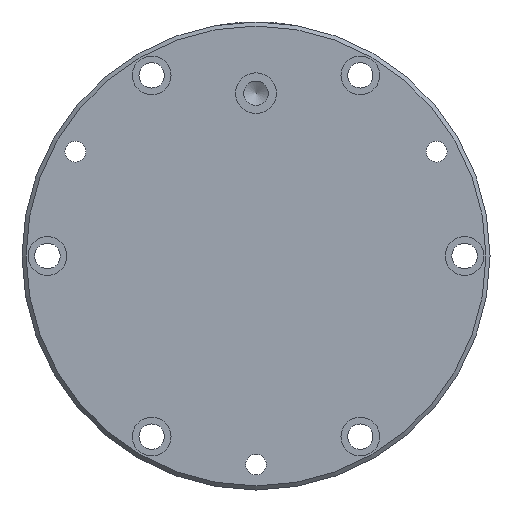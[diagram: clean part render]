
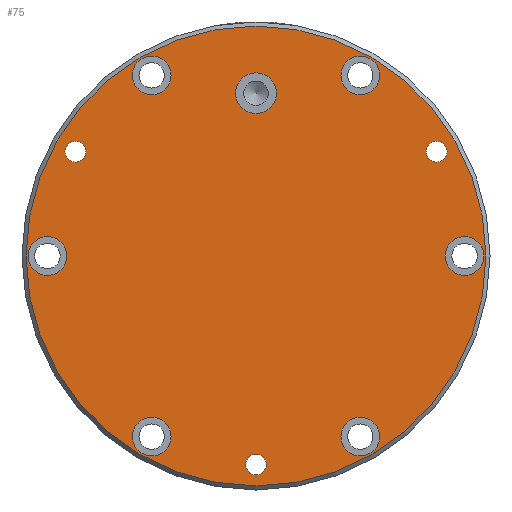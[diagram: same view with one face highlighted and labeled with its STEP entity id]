
A CAD part, left-side view. The second image highlights one B-rep face of the part: STEP entity #75.
In plain terms, the highlighted planar face has unit normal (-1, 0, 0).
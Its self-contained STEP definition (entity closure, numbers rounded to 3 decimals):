
#75 = ADVANCED_FACE( '', ( #118, #119, #120, #121, #122, #123, #124, #125, #126, #127, #128 ), #129, .T. );
#118 = FACE_BOUND( '', #262, .T. );
#119 = FACE_BOUND( '', #263, .T. );
#120 = FACE_BOUND( '', #264, .T. );
#121 = FACE_BOUND( '', #265, .T. );
#122 = FACE_BOUND( '', #266, .T. );
#123 = FACE_BOUND( '', #267, .T. );
#124 = FACE_BOUND( '', #268, .T. );
#125 = FACE_BOUND( '', #269, .T. );
#126 = FACE_BOUND( '', #270, .T. );
#127 = FACE_OUTER_BOUND( '', #271, .T. );
#128 = FACE_BOUND( '', #272, .T. );
#129 = PLANE( '', #273 );
#262 = EDGE_LOOP( '', ( #406 ) );
#263 = EDGE_LOOP( '', ( #407 ) );
#264 = EDGE_LOOP( '', ( #408 ) );
#265 = EDGE_LOOP( '', ( #409 ) );
#266 = EDGE_LOOP( '', ( #410 ) );
#267 = EDGE_LOOP( '', ( #411 ) );
#268 = EDGE_LOOP( '', ( #412 ) );
#269 = EDGE_LOOP( '', ( #413 ) );
#270 = EDGE_LOOP( '', ( #414 ) );
#271 = EDGE_LOOP( '', ( #415 ) );
#272 = EDGE_LOOP( '', ( #416 ) );
#273 = AXIS2_PLACEMENT_3D( '', #417, #418, #419 );
#406 = ORIENTED_EDGE( '', *, *, #635, .F. );
#407 = ORIENTED_EDGE( '', *, *, #636, .F. );
#408 = ORIENTED_EDGE( '', *, *, #637, .F. );
#409 = ORIENTED_EDGE( '', *, *, #638, .T. );
#410 = ORIENTED_EDGE( '', *, *, #639, .T. );
#411 = ORIENTED_EDGE( '', *, *, #640, .T. );
#412 = ORIENTED_EDGE( '', *, *, #641, .T. );
#413 = ORIENTED_EDGE( '', *, *, #642, .T. );
#414 = ORIENTED_EDGE( '', *, *, #643, .T. );
#415 = ORIENTED_EDGE( '', *, *, #644, .T. );
#416 = ORIENTED_EDGE( '', *, *, #645, .T. );
#417 = CARTESIAN_POINT( '', ( 0., 0., 0. ) );
#418 = DIRECTION( '', ( -1., 0., 0. ) );
#419 = DIRECTION( '', ( 0., 0., 1. ) );
#635 = EDGE_CURVE( '', #687, #687, #688, .T. );
#636 = EDGE_CURVE( '', #689, #689, #690, .T. );
#637 = EDGE_CURVE( '', #691, #691, #692, .T. );
#638 = EDGE_CURVE( '', #693, #693, #694, .T. );
#639 = EDGE_CURVE( '', #695, #695, #696, .T. );
#640 = EDGE_CURVE( '', #697, #697, #698, .T. );
#641 = EDGE_CURVE( '', #699, #699, #700, .T. );
#642 = EDGE_CURVE( '', #701, #701, #702, .T. );
#643 = EDGE_CURVE( '', #703, #703, #704, .T. );
#644 = EDGE_CURVE( '', #705, #705, #706, .T. );
#645 = EDGE_CURVE( '', #707, #707, #708, .T. );
#687 = VERTEX_POINT( '', #788 );
#688 = CIRCLE( '', #789, 5.1 );
#689 = VERTEX_POINT( '', #790 );
#690 = CIRCLE( '', #791, 5.1 );
#691 = VERTEX_POINT( '', #792 );
#692 = CIRCLE( '', #793, 5.1 );
#693 = VERTEX_POINT( '', #794 );
#694 = CIRCLE( '', #795, 9.5 );
#695 = VERTEX_POINT( '', #796 );
#696 = CIRCLE( '', #797, 9.5 );
#697 = VERTEX_POINT( '', #798 );
#698 = CIRCLE( '', #799, 9.5 );
#699 = VERTEX_POINT( '', #800 );
#700 = CIRCLE( '', #801, 9.5 );
#701 = VERTEX_POINT( '', #802 );
#702 = CIRCLE( '', #803, 9.5 );
#703 = VERTEX_POINT( '', #804 );
#704 = CIRCLE( '', #805, 9.5 );
#705 = VERTEX_POINT( '', #806 );
#706 = CIRCLE( '', #807, 113. );
#707 = VERTEX_POINT( '', #808 );
#708 = CIRCLE( '', #809, 10. );
#788 = CARTESIAN_POINT( '', ( 0., -5.1, -102.5 ) );
#789 = AXIS2_PLACEMENT_3D( '', #1087, #1088, #1089 );
#790 = CARTESIAN_POINT( '', ( 0., -93.868, 51.25 ) );
#791 = AXIS2_PLACEMENT_3D( '', #1090, #1091, #1092 );
#792 = CARTESIAN_POINT( '', ( 0., 83.668, 51.25 ) );
#793 = AXIS2_PLACEMENT_3D( '', #1093, #1094, #1095 );
#794 = CARTESIAN_POINT( '', ( 0., -102.5, 9.5 ) );
#795 = AXIS2_PLACEMENT_3D( '', #1096, #1097, #1098 );
#796 = CARTESIAN_POINT( '', ( 0., -51.25, -79.268 ) );
#797 = AXIS2_PLACEMENT_3D( '', #1099, #1100, #1101 );
#798 = CARTESIAN_POINT( '', ( 0., 51.25, -79.268 ) );
#799 = AXIS2_PLACEMENT_3D( '', #1102, #1103, #1104 );
#800 = CARTESIAN_POINT( '', ( 0., 102.5, 9.5 ) );
#801 = AXIS2_PLACEMENT_3D( '', #1105, #1106, #1107 );
#802 = CARTESIAN_POINT( '', ( 0., 51.25, 98.268 ) );
#803 = AXIS2_PLACEMENT_3D( '', #1108, #1109, #1110 );
#804 = CARTESIAN_POINT( '', ( 0., -51.25, 98.268 ) );
#805 = AXIS2_PLACEMENT_3D( '', #1111, #1112, #1113 );
#806 = CARTESIAN_POINT( '', ( 0., 0., 113. ) );
#807 = AXIS2_PLACEMENT_3D( '', #1114, #1115, #1116 );
#808 = CARTESIAN_POINT( '', ( 0., -10., 80. ) );
#809 = AXIS2_PLACEMENT_3D( '', #1117, #1118, #1119 );
#1087 = CARTESIAN_POINT( '', ( 0., 0., -102.5 ) );
#1088 = DIRECTION( '', ( -1., 0., 0. ) );
#1089 = DIRECTION( '', ( 0., -1., 0. ) );
#1090 = CARTESIAN_POINT( '', ( 0., -88.768, 51.25 ) );
#1091 = DIRECTION( '', ( -1., 0., 0. ) );
#1092 = DIRECTION( '', ( 0., -1., 0. ) );
#1093 = CARTESIAN_POINT( '', ( 0., 88.768, 51.25 ) );
#1094 = DIRECTION( '', ( -1., 0., 0. ) );
#1095 = DIRECTION( '', ( 0., -1., 0. ) );
#1096 = CARTESIAN_POINT( '', ( 0., -102.5, 0. ) );
#1097 = DIRECTION( '', ( 1., 0., 0. ) );
#1098 = DIRECTION( '', ( 0., 0., 1. ) );
#1099 = CARTESIAN_POINT( '', ( 0., -51.25, -88.768 ) );
#1100 = DIRECTION( '', ( 1., 0., 0. ) );
#1101 = DIRECTION( '', ( 0., 0., 1. ) );
#1102 = CARTESIAN_POINT( '', ( 0., 51.25, -88.768 ) );
#1103 = DIRECTION( '', ( 1., 0., 0. ) );
#1104 = DIRECTION( '', ( 0., 0., 1. ) );
#1105 = CARTESIAN_POINT( '', ( 0., 102.5, 0. ) );
#1106 = DIRECTION( '', ( 1., 0., 0. ) );
#1107 = DIRECTION( '', ( 0., 0., 1. ) );
#1108 = CARTESIAN_POINT( '', ( 0., 51.25, 88.768 ) );
#1109 = DIRECTION( '', ( 1., 0., 0. ) );
#1110 = DIRECTION( '', ( 0., 0., 1. ) );
#1111 = CARTESIAN_POINT( '', ( 0., -51.25, 88.768 ) );
#1112 = DIRECTION( '', ( 1., 0., 0. ) );
#1113 = DIRECTION( '', ( 0., 0., 1. ) );
#1114 = CARTESIAN_POINT( '', ( 0., 0., 0. ) );
#1115 = DIRECTION( '', ( -1., 0., 0. ) );
#1116 = DIRECTION( '', ( 0., 0., 1. ) );
#1117 = CARTESIAN_POINT( '', ( 0., 0., 80. ) );
#1118 = DIRECTION( '', ( 1., 0., 0. ) );
#1119 = DIRECTION( '', ( 0., -1., 0. ) );
